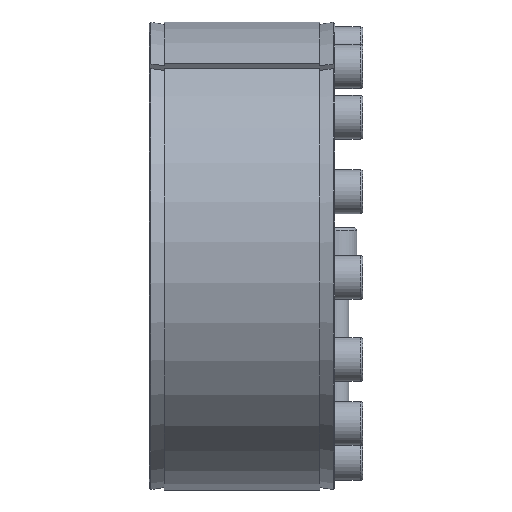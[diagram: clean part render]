
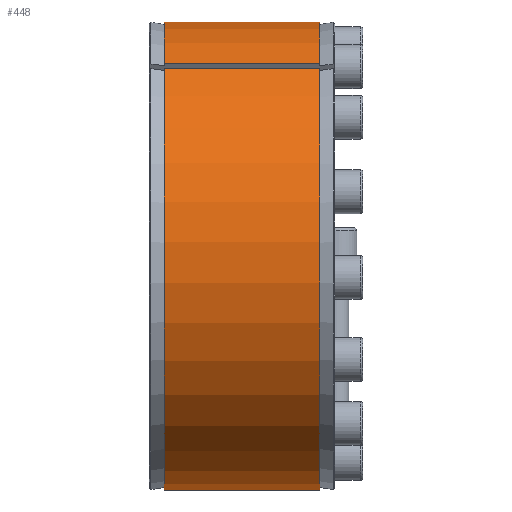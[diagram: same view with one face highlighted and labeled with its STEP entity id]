
A CAD part, left-side view. The second image highlights one B-rep face of the part: STEP entity #448.
In plain terms, the highlighted cylindrical face has radius 117.5 mm (diameter 235 mm), a partial arc.
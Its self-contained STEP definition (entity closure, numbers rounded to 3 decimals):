
#448 = ADVANCED_FACE( '', ( #787 ), #788, .T. );
#787 = FACE_OUTER_BOUND( '', #1124, .T. );
#788 = CYLINDRICAL_SURFACE( '', #1125, 117.5 );
#1124 = EDGE_LOOP( '', ( #1741, #1742, #1743, #1744 ) );
#1125 = AXIS2_PLACEMENT_3D( '', #1745, #1746, #1747 );
#1741 = ORIENTED_EDGE( '', *, *, #2313, .T. );
#1742 = ORIENTED_EDGE( '', *, *, #2277, .T. );
#1743 = ORIENTED_EDGE( '', *, *, #2336, .F. );
#1744 = ORIENTED_EDGE( '', *, *, #2420, .T. );
#1745 = CARTESIAN_POINT( '', ( 0., -60., 0. ) );
#1746 = DIRECTION( '', ( 0., 1., 0. ) );
#1747 = DIRECTION( '', ( 0., 0., -1. ) );
#2277 = EDGE_CURVE( '', #2597, #2595, #2598, .T. );
#2313 = EDGE_CURVE( '', #2663, #2597, #2664, .T. );
#2336 = EDGE_CURVE( '', #2705, #2595, #2706, .T. );
#2420 = EDGE_CURVE( '', #2705, #2663, #2848, .F. );
#2595 = VERTEX_POINT( '', #3037 );
#2597 = VERTEX_POINT( '', #3040 );
#2598 = LINE( '', #3041, #3042 );
#2663 = VERTEX_POINT( '', #3132 );
#2664 = CIRCLE( '', #3133, 117.5 );
#2705 = VERTEX_POINT( '', #3182 );
#2706 = CIRCLE( '', #3183, 117.5 );
#2848 = LINE( '', #3744, #3745 );
#3037 = CARTESIAN_POINT( '', ( -67.437, 7.5, 96.221 ) );
#3040 = CARTESIAN_POINT( '', ( -67.437, 85.5, 96.221 ) );
#3041 = CARTESIAN_POINT( '', ( -67.437, -60., 96.221 ) );
#3042 = VECTOR( '', #3882, 1000. );
#3132 = CARTESIAN_POINT( '', ( -70.673, 85.5, 93.87 ) );
#3133 = AXIS2_PLACEMENT_3D( '', #3959, #3960, #3961 );
#3182 = CARTESIAN_POINT( '', ( -70.673, 7.5, 93.87 ) );
#3183 = AXIS2_PLACEMENT_3D( '', #4018, #4019, #4020 );
#3744 = CARTESIAN_POINT( '', ( -70.673, -60., 93.87 ) );
#3745 = VECTOR( '', #4206, 1000. );
#3882 = DIRECTION( '', ( 0., -1., 0. ) );
#3959 = CARTESIAN_POINT( '', ( 0., 85.5, 0. ) );
#3960 = DIRECTION( '', ( 0., -1., 0. ) );
#3961 = DIRECTION( '', ( 0., 0., -1. ) );
#4018 = CARTESIAN_POINT( '', ( 0., 7.5, 0. ) );
#4019 = DIRECTION( '', ( 0., -1., 0. ) );
#4020 = DIRECTION( '', ( 0., 0., -1. ) );
#4206 = DIRECTION( '', ( 0., -1., 0. ) );
